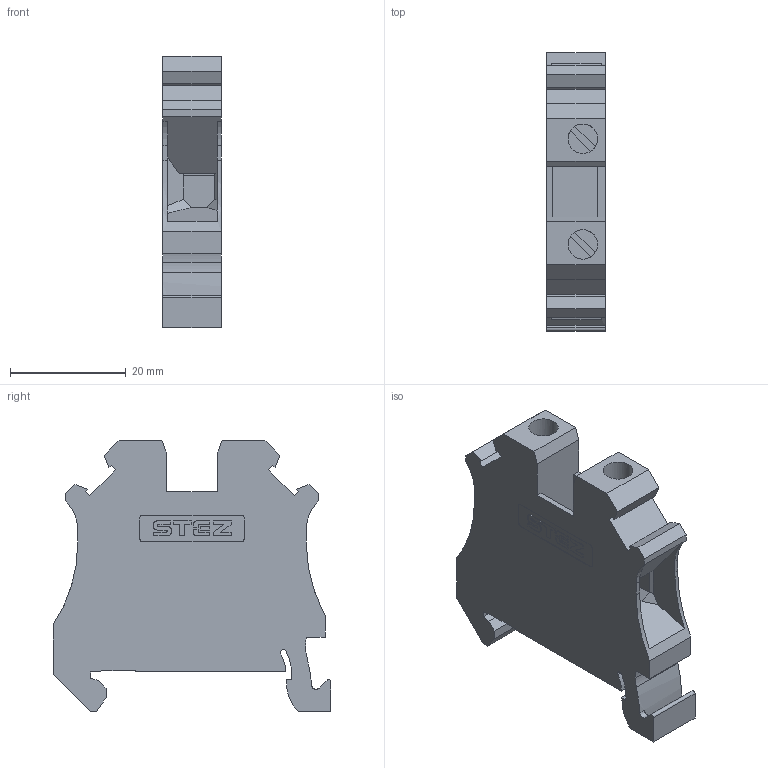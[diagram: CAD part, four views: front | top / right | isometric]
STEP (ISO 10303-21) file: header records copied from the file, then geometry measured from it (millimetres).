
FILE_DESCRIPTION(('TFLEX Exchange Step'),'2;1');
FILE_NAME('11000034_KHB_10-2-Ч.stp', '2023-10-03T11:23:56+03:00',('apanin'),('Unknown organisation'),'TFLEX Exchange 2023.0','T-FLEX CAD','Unknown authorisation');
FILE_SCHEMA( ('AUTOMOTIVE_DESIGN { 1 0 10303 214 1 1 1 1 }') );
Length unit declared in the file: millimetre
Products named in the file (1): Тело_1 - 1:1
Bounding box: 10.15 x 48 x 46.85 mm (x, y, z)
Volume: 13376.1 mm3; surface area: 6919.5 mm2
Topology: 1 solids, 1 shells, 348 faces, 1017 edges, 680 vertices
Faces by surface type: cylinder 185, plane 163
Full cylindrical faces by diameter (mm): 5.1 x2
Entity records: 11705 total; most frequent: DIRECTION 2077, CARTESIAN_POINT 2071, ORIENTED_EDGE 2034, EDGE_CURVE 1017, AXIS2_PLACEMENT_3D 736, VERTEX_POINT 680, VECTOR 605, LINE 605
